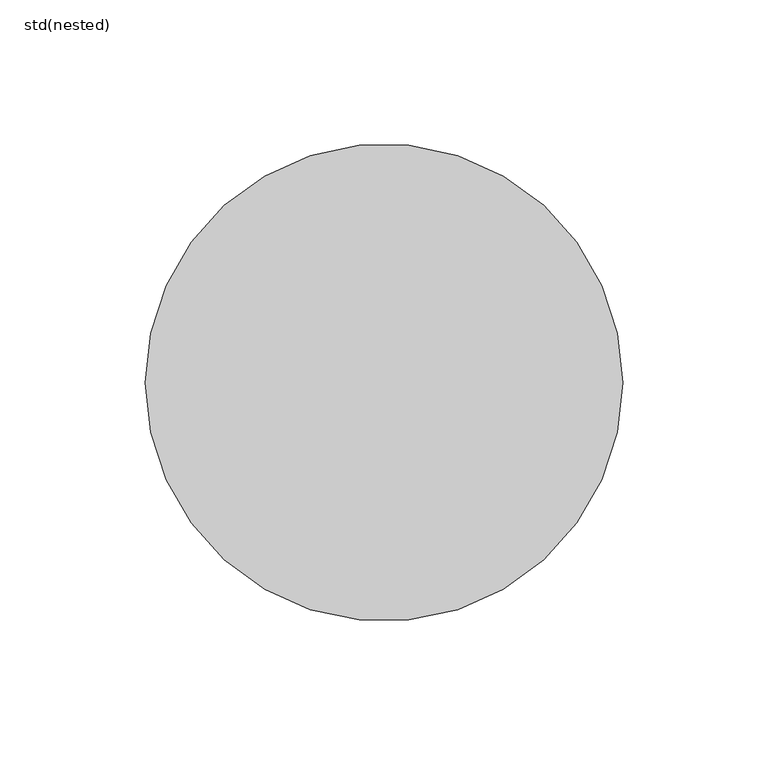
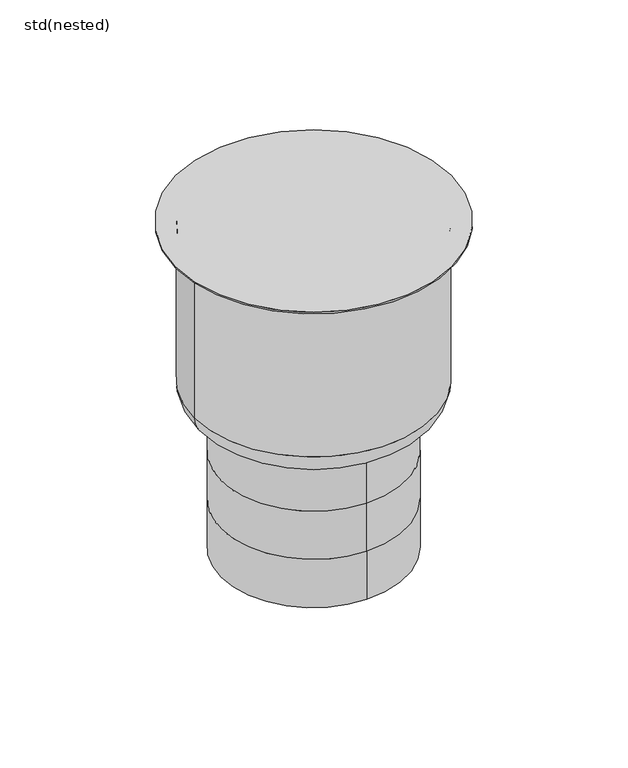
"""IFC4 building model written with IfcOpenShell, lengths in millimetres: sanitary terminal geometry, ZZZ_do not use_PF_ST_WPB_floor drains variant_CR 142_ACO : std(nested)."""

import ifcopenshell
import ifcopenshell.guid

model = None  # the IFC model being written
_history = None  # IfcOwnerHistory: only IFC2X3 demands one
_inside = {}  # id of a spatial element -> (the spatial element, [elements in it])
_under = {}  # id of a project, library or spatial element -> (it, [spatial elements below it])
_declared = {}  # id of a project -> (the project, [libraries it declares])
_typed = {}  # id of a type object -> (the type object, [elements of that type])
_made_of = {}  # id of a material, layer set ... -> (it, [elements and type objects made of it])


def new_model(schema):
    """Start an empty IFC model of exactly this schema.

    Asked for "IFC4X3", IfcOpenShell would pick the latest addendum, in which some entities
    have other attributes; the version numbers below select the first issue.
    IFC2X3 requires an IfcOwnerHistory on every rooted entity: one is made here for all.
    """
    global model, _history
    if schema == "IFC4X3":
        model = ifcopenshell.file(schema_version=(4, 3, 0, 0))
    else:
        model = ifcopenshell.file(schema=schema)
    _inside.clear()
    _under.clear()
    _declared.clear()
    _typed.clear()
    _made_of.clear()
    _history = None
    if model.schema == "IFC2X3":
        org = make("IfcOrganization", Name="unknown")
        user = make(
            "IfcPersonAndOrganization",
            ThePerson=make("IfcPerson", FamilyName="unknown"),
            TheOrganization=org,
        )
        app = make(
            "IfcApplication",
            ApplicationDeveloper=org,
            Version="unknown",
            ApplicationFullName="unknown",
            ApplicationIdentifier="unknown",
        )
        _history = make(
            "IfcOwnerHistory",
            OwningUser=user,
            OwningApplication=app,
            ChangeAction="ADDED",
            CreationDate=0,
        )
    return model


def make(cls, **values):
    """One entity of the class cls with the attributes given. An attribute that is None is left unset."""
    return model.create_entity(
        cls, **{name: value for name, value in values.items() if value is not None}
    )


def rooted(cls, **values):
    """An entity with a GlobalId (a new one), such as an element, a storey or a relation."""
    return make(cls, GlobalId=ifcopenshell.guid.new(), OwnerHistory=_history, **values)


def si_unit(unit_type, name, prefix=None):
    """IfcSIUnit, for example si_unit("LENGTHUNIT", "METRE", prefix="MILLI")."""
    return make("IfcSIUnit", UnitType=unit_type, Prefix=prefix, Name=name)


def assignment(units):
    """IfcUnitAssignment: the units of a project."""
    return None if units is None else make("IfcUnitAssignment", Units=units)


def point(xyz):
    """IfcCartesianPoint."""
    return None if xyz is None else make("IfcCartesianPoint", Coordinates=xyz)


def direction(xyz):
    """IfcDirection."""
    return None if xyz is None else make("IfcDirection", DirectionRatios=xyz)


def frame(location, z_axis=None, x_axis=None):
    """IfcAxis2Placement3D, a coordinate frame: its origin and axes. An axis left out is left unset."""
    return make(
        "IfcAxis2Placement3D",
        Location=point(location),
        Axis=direction(z_axis),
        RefDirection=direction(x_axis),
    )


def origin():
    """The frame at (0, 0, 0) with its axes left unset."""
    return frame((0.0, 0.0, 0.0))


def origin_with_axes():
    """The frame at (0, 0, 0) with the z axis (0, 0, 1) and the x axis (1, 0, 0) written out."""
    return frame((0.0, 0.0, 0.0), z_axis=(0.0, 0.0, 1.0), x_axis=(1.0, 0.0, 0.0))


def place(relative_to, where):
    """IfcLocalPlacement: puts the frame where relative to a parent placement (None: the world)."""
    return make(
        "IfcLocalPlacement", PlacementRelTo=relative_to, RelativePlacement=where
    )


def context(
    kind, dimensions, precision=None, world=None, true_north=None, identifier=None
):
    """IfcGeometricRepresentationContext, for example the 3D "Model" context."""
    return make(
        "IfcGeometricRepresentationContext",
        ContextIdentifier=identifier,
        ContextType=kind,
        CoordinateSpaceDimension=dimensions,
        Precision=precision,
        WorldCoordinateSystem=world,
        TrueNorth=true_north,
    )


def project(units=None, contexts=None):
    """IfcProject with its units and contexts."""
    return rooted(
        "IfcProject",
        Name="project",
        RepresentationContexts=contexts,
        UnitsInContext=assignment(units),
    )


def spatial(cls, under=None, at=None, **own):
    """A site, building, storey or space (cls), placed at a placement, below another one or the project."""
    s = rooted(cls, ObjectPlacement=at, **own)
    if under is not None:
        _under.setdefault(under.id(), (under, []))[1].append(s)
    return s


def circle_curve(where, radius):
    """IfcCircle in the frame where."""
    return make("IfcCircle", Position=where, Radius=radius)


def ellipse_curve(where, semi_axis1, semi_axis2):
    """IfcEllipse in the frame where."""
    return make(
        "IfcEllipse", Position=where, SemiAxis1=semi_axis1, SemiAxis2=semi_axis2
    )


def trimmed(basis, trim1, trim2, sense, master):
    """IfcTrimmedCurve: the piece of a basis curve between two trims."""
    return make(
        "IfcTrimmedCurve",
        BasisCurve=basis,
        Trim1=trim1,
        Trim2=trim2,
        SenseAgreement=sense,
        MasterRepresentation=master,
    )


def shape(context_of_items, identifier, shape_type, items):
    """IfcShapeRepresentation: the items that make up one representation, for example the "Body"."""
    return make(
        "IfcShapeRepresentation",
        ContextOfItems=context_of_items,
        RepresentationIdentifier=identifier,
        RepresentationType=shape_type,
        Items=items,
    )


def source(mapping_origin, context_of_items, identifier, shape_type, items):
    """IfcRepresentationMap: a shape defined once, which mapped items show again and again."""
    return make(
        "IfcRepresentationMap",
        MappingOrigin=mapping_origin,
        MappedRepresentation=shape(context_of_items, identifier, shape_type, items),
    )


def transform(
    local_origin,
    x_axis=None,
    y_axis=None,
    z_axis=None,
    scale=None,
    scale2=None,
    scale3=None,
    uniform=True,
):
    """IfcCartesianTransformationOperator3D, or its non-uniform kind. x_axis, y_axis, z_axis: its Axis1, 2, 3."""
    if uniform:
        return make(
            "IfcCartesianTransformationOperator3D",
            Axis1=direction(x_axis),
            Axis2=direction(y_axis),
            LocalOrigin=point(local_origin),
            Scale=scale,
            Axis3=direction(z_axis),
        )
    return make(
        "IfcCartesianTransformationOperator3DnonUniform",
        Axis1=direction(x_axis),
        Axis2=direction(y_axis),
        LocalOrigin=point(local_origin),
        Scale=scale,
        Axis3=direction(z_axis),
        Scale2=scale2,
        Scale3=scale3,
    )


def mapped(mapping_source, mapping_target):
    """IfcMappedItem: shows the shape of a source again, moved by a transform."""
    return make(
        "IfcMappedItem", MappingSource=mapping_source, MappingTarget=mapping_target
    )


def made_of(thing, what):
    """Note that an element or type object is made of a material, layer set ...; save() writes the relation."""
    if what is not None:
        _made_of.setdefault(what.id(), (what, []))[1].append(thing)
    return thing


def element(
    cls,
    number,
    at=None,
    inside=None,
    cuts=None,
    type_object=None,
    material=None,
    context=None,
    identifier="Body",
    shape_type=None,
    held_by="IfcProductDefinitionShape",
    body=None,
    shapes=None,
    **own,
):
    """One element of the class cls, such as IfcWall. Its Tag is "e" and its number.

    at: its placement. inside: the storey or other place that contains it. cuts: it is an
    opening in that element (IfcRelVoidsElement). A single representation is given by context,
    identifier, shape_type and body (its items); several are given by shapes. held_by: the class
    of the entity that holds the representations. save() writes the other relations.
    """
    e = rooted(cls, Tag="e%d" % number, ObjectPlacement=at, **own)
    if body is not None:
        shapes = [shape(context, identifier, shape_type, body)]
    if shapes is not None:
        e.Representation = make(held_by, Representations=shapes)
    if inside is not None:
        _inside.setdefault(inside.id(), (inside, []))[1].append(e)
    if cuts is not None:
        rooted(
            "IfcRelVoidsElement", RelatingBuildingElement=cuts, RelatedOpeningElement=e
        )
    if type_object is not None:
        _typed.setdefault(type_object.id(), (type_object, []))[1].append(e)
    return made_of(e, material)


def aggregate(whole, parts):
    """IfcRelAggregates: a whole, such as a stair, and the parts it consists of."""
    return rooted("IfcRelAggregates", RelatingObject=whole, RelatedObjects=parts)


def save(model, path):
    """Write the relations noted so far, then the file.

    IfcRelAggregates (storeys below a building ...), IfcRelContainedInSpatialStructure (elements
    in a storey), IfcRelDefinesByType, IfcRelAssociatesMaterial and IfcRelDeclares: one each for
    every whole, place, type object, material and project.
    """
    for whole, parts in _under.values():
        aggregate(whole, parts)
    for where, things in _inside.values():
        rooted(
            "IfcRelContainedInSpatialStructure",
            RelatedElements=things,
            RelatingStructure=where,
        )
    for kind, things in _typed.values():
        rooted("IfcRelDefinesByType", RelatedObjects=things, RelatingType=kind)
    for what, things in _made_of.values():
        rooted("IfcRelAssociatesMaterial", RelatedObjects=things, RelatingMaterial=what)
    for by, libraries in _declared.values():
        rooted("IfcRelDeclares", RelatingContext=by, RelatedDefinitions=libraries)
    model.write(path)


def plane_surface(at):
    """IfcPlane: the flat surface through the origin of the frame at, square to its z axis."""
    return make("IfcPlane", Position=at)


def cylinder_surface(at, radius):
    """IfcCylindricalSurface: all points at the distance radius from the z axis of the frame at."""
    return make("IfcCylindricalSurface", Position=at, Radius=radius)


def revolved_surface(curve, axis_point, axis_direction):
    """IfcSurfaceOfRevolution: the curve turned about the line through axis_point along axis_direction."""
    return make(
        "IfcSurfaceOfRevolution",
        SweptCurve=make("IfcArbitraryOpenProfileDef", ProfileType="CURVE", Curve=curve),
        AxisPosition=make("IfcAxis1Placement", Location=point(axis_point), Axis=direction(axis_direction)),
    )


def advanced_brep(points, edges, surfaces, faces):
    """IfcAdvancedBrep: a solid bounded by faces that lie on surfaces and meet in shared edges.

    An edge is (start, end): straight between two places in points (the first is 0);
    or (start, end, curve); or (start, end, curve, False) where it runs against its curve.
    A face is (place in surfaces, loops), or (place, loops, False) where it looks against
    its surface's normal. A loop lists edges by number (the first is 1), with a minus sign
    where the edge is run from its end to its start. The first loop is the outer one.
    """
    corners = [point(p) for p in points]
    vertices = [make("IfcVertexPoint", VertexGeometry=c) for c in corners]
    made = []
    for start, end, *more in edges:
        made.append(
            make(
                "IfcEdgeCurve",
                EdgeStart=vertices[start],
                EdgeEnd=vertices[end],
                EdgeGeometry=more[0] if more else make("IfcPolyline", Points=[corners[start], corners[end]]),
                SameSense=more[1] if len(more) > 1 else True,
            )
        )
    hull = []
    for where, loops, *sense in faces:
        bounds = []
        for j, loop in enumerate(loops):
            ring = [make("IfcOrientedEdge", EdgeElement=made[abs(k) - 1], Orientation=k > 0) for k in loop]
            bounds.append(
                make(
                    "IfcFaceOuterBound" if j == 0 else "IfcFaceBound",
                    Bound=make("IfcEdgeLoop", EdgeList=ring),
                    Orientation=True,
                )
            )
        hull.append(make("IfcAdvancedFace", Bounds=bounds, FaceSurface=surfaces[where], SameSense=sense[0] if sense else True))
    return make("IfcAdvancedBrep", Outer=make("IfcClosedShell", CfsFaces=hull))


def std_nested_5476db3b(model_context):
    return source(origin(), model_context, "Body", "AdvancedBrep", [
        advanced_brep(
        [(0.0, -55.0, -205.0), (0.0, 55.0, -205.0), (0.0, -55.0, -174.6666667), (0.0, 55.0, -174.6666667), (0.0, -55.0, -144.3333333), (0.0, 55.0, -144.3333333), (0.0, 55.0, -114.0), (55.0, 0.0, -114.0), (0.0, -55.0, -114.0), (-55.0, 0.0, -114.0), (71.0, 0.0, -99.0), (-71.0, 0.0, -99.0), (-71.0, 0.0, -1.0), (71.0, 0.0, -1.0), (56.0, 0.0, -114.0), (-56.0, 0.0, -114.0), (-82.0, 0.0, -1.0), (82.0, 0.0, -1.0), (-82.0, 0.0, 0.0), (82.0, 0.0, 0.0)],
        [
            (0, 1, circle_curve(frame((0.0, 0.0, -205.0), z_axis=(0.0, 0.0, -1.0), x_axis=(0.0, 1.0, 0.0)), 55.0)),
            (1, 0, circle_curve(frame((0.0, 0.0, -205.0), z_axis=(0.0, 0.0, -1.0), x_axis=(0.0, 1.0, 0.0)), 55.0)),
            (0, 2),
            (2, 3, circle_curve(frame((0.0, 0.0, -174.6666667), z_axis=(0.0, 0.0, -1.0), x_axis=(0.0, 1.0, 0.0)), 55.0)),
            (3, 1),
            (3, 2, circle_curve(frame((0.0, 0.0, -174.6666667), z_axis=(0.0, 0.0, -1.0), x_axis=(0.0, 1.0, 0.0)), 55.0)),
            (4, 2),
            (3, 5),
            (5, 4, circle_curve(frame((0.0, 0.0, -144.3333333), z_axis=(0.0, 0.0, -1.0), x_axis=(1.0, 0.0, 0.0)), 55.0)),
            (4, 5, circle_curve(frame((0.0, 0.0, -144.3333333), z_axis=(0.0, 0.0, -1.0), x_axis=(-1.0, 0.0, 0.0)), 55.0)),
            (5, 6),
            (6, 7, circle_curve(frame((0.0, 0.0, -114.0), z_axis=(0.0, 0.0, -1.0), x_axis=(0.0, 1.0, 0.0)), 55.0)),
            (7, 8, circle_curve(frame((0.0, 0.0, -114.0), z_axis=(0.0, 0.0, -1.0), x_axis=(0.0, 1.0, 0.0)), 55.0)),
            (8, 4),
            (8, 9, circle_curve(frame((0.0, 0.0, -114.0), z_axis=(0.0, 0.0, -1.0), x_axis=(0.0, 1.0, 0.0)), 55.0)),
            (9, 6, circle_curve(frame((0.0, 0.0, -114.0), z_axis=(0.0, 0.0, -1.0), x_axis=(0.0, 1.0, 0.0)), 55.0)),
            (10, 11, circle_curve(frame((0.0, 0.0, -99.0), z_axis=(0.0, 0.0, 1.0), x_axis=(-1.0, 0.0, 0.0)), 71.0)),
            (11, 12),
            (12, 13, circle_curve(frame((0.0, 0.0, -1.0), z_axis=(0.0, 0.0, -1.0), x_axis=(-1.0, 0.0, 0.0)), 71.0)),
            (13, 10),
            (11, 10, circle_curve(frame((0.0, 0.0, -99.0), z_axis=(0.0, 0.0, 1.0), x_axis=(-1.0, 0.0, 0.0)), 71.0)),
            (13, 12, circle_curve(frame((0.0, 0.0, -1.0), z_axis=(0.0, 0.0, -1.0), x_axis=(-1.0, 0.0, 0.0)), 71.0)),
            (10, 14, circle_curve(frame((56.0, 0.0, -99.0), z_axis=(0.0, 1.0, 0.0), x_axis=(-1.0, 0.0, 0.0)), 15.0)),
            (14, 15, circle_curve(frame((0.0, 0.0, -114.0), z_axis=(0.0, 0.0, 1.0), x_axis=(-1.0, 0.0, 0.0)), 56.0)),
            (15, 11, circle_curve(frame((-56.0, 0.0, -99.0), z_axis=(0.0, 1.0, 0.0), x_axis=(1.0, 0.0, 0.0)), 15.0)),
            (15, 14, circle_curve(frame((0.0, 0.0, -114.0), z_axis=(0.0, 0.0, 1.0), x_axis=(-1.0, 0.0, 0.0)), 56.0)),
            (14, 7),
            (9, 15),
            (16, 17, circle_curve(frame((0.0, 0.0, -1.0), z_axis=(0.0, 0.0, -1.0), x_axis=(1.0, 0.0, 0.0)), 82.0)),
            (17, 16, circle_curve(frame((0.0, 0.0, -1.0), z_axis=(0.0, 0.0, -1.0), x_axis=(1.0, 0.0, 0.0)), 82.0)),
            (18, 19, circle_curve(origin_with_axes(), 82.0)),
            (19, 18, circle_curve(origin_with_axes(), 82.0)),
            (17, 19),
            (18, 16),
        ],
        [
            plane_surface(frame((0.0, 55.0, -205.0), z_axis=(0.0, 0.0, -1.0), x_axis=(1.0, 0.0, 0.0))),
            cylinder_surface(frame((0.0, 0.0, -174.6666667), z_axis=(0.0, 0.0, -1.0), x_axis=(0.0, 1.0, 0.0)), 55.0),
            cylinder_surface(frame((0.0, 0.0, -144.3333333), z_axis=(0.0, 0.0, -1.0), x_axis=(1.0, 0.0, 0.0)), 55.0),
            cylinder_surface(frame((0.0, 0.0, -144.3333333), z_axis=(0.0, 0.0, -1.0), x_axis=(-1.0, 0.0, 0.0)), 55.0),
            cylinder_surface(frame((0.0, 0.0, -114.0), z_axis=(0.0, 0.0, -1.0), x_axis=(0.0, 1.0, 0.0)), 55.0),
            cylinder_surface(frame((0.0, 0.0, 60.0), z_axis=(0.0, 0.0, -1.0), x_axis=(-1.0, 0.0, 0.0)), 71.0),
            revolved_surface(trimmed(ellipse_curve(frame((-56.0, 0.0, -99.0), z_axis=(0.0, -1.0, 0.0), x_axis=(1.0, 0.0, 0.0)), 15.0, 15.0), [point((-71.0, 0.0, -99.0))], [point((-56.0, 0.0, -114.0))], True, "CARTESIAN"), (0.0, 0.0, 60.0), (0.0, 0.0, -1.0)),
            plane_surface(frame((0.0, 0.0, -114.0), z_axis=(0.0, 0.0, -1.0), x_axis=(-1.0, 0.0, 0.0))),
            plane_surface(frame((82.0, 0.0, -1.0), z_axis=(0.0, 0.0, -1.0), x_axis=(0.0, -1.0, 0.0))),
            plane_surface(frame((82.0, 0.0, 0.0), z_axis=(0.0, 0.0, 1.0), x_axis=(0.0, 1.0, 0.0))),
            cylinder_surface(frame((0.0, 0.0, -1.0), z_axis=(0.0, 0.0, 1.0), x_axis=(1.0, 0.0, 0.0)), 82.0),
        ],
        [
            (0, [[1, 2]]),
            (1, [[-1, 3, 4, 5]]),
            (1, [[-2, -5, 6, -3]]),
            (2, [[7, -6, 8, 9]]),
            (3, [[-7, 10, -8, -4]]),
            (4, [[11, 12, 13, 14, -9]]),
            (4, [[-11, -10, -14, 15, 16]]),
            (5, [[17, 18, 19, 20]]),
            (5, [[-18, 21, -20, 22]]),
            (6, [[-17, 23, 24, 25]]),
            (6, [[-21, -25, 26, -23]]),
            (7, [[-24, 27, -12, -16, 28]]),
            (7, [[-26, -28, -15, -13, -27]]),
            (8, [[29, 30], [-19, -22]]),
            (9, [[31, 32]]),
            (10, [[-30, 33, -31, 34]]),
            (10, [[-29, -34, -32, -33]]),
        ],
    ),
    ])


if __name__ == "__main__":
    model = new_model("IFC4")
    model_context = context("Model", 3, world=origin())
    ifc_project = project(units=[si_unit("LENGTHUNIT", "METRE", prefix="MILLI")], contexts=[model_context])
    site = spatial("IfcSite", under=ifc_project)
    building = spatial("IfcBuilding", under=site)
    placement = place(None, origin())
    std_nested_shape = std_nested_5476db3b(model_context)
    element("IfcSanitaryTerminal", 1, ObjectType="ZZZ_do not use_PF_ST_WPB_floor drains variant_CR 142_ACO : std(nested)", at=placement, inside=building, context=model_context, shape_type="MappedRepresentation", body=[
        mapped(std_nested_shape, transform((0.0, 0.0, 0.0), x_axis=(1.0, 0.0, 0.0), y_axis=(0.0, 1.0, 0.0), z_axis=(0.0, 0.0, 1.0))),
    ])
    save(model, "model.ifc")
